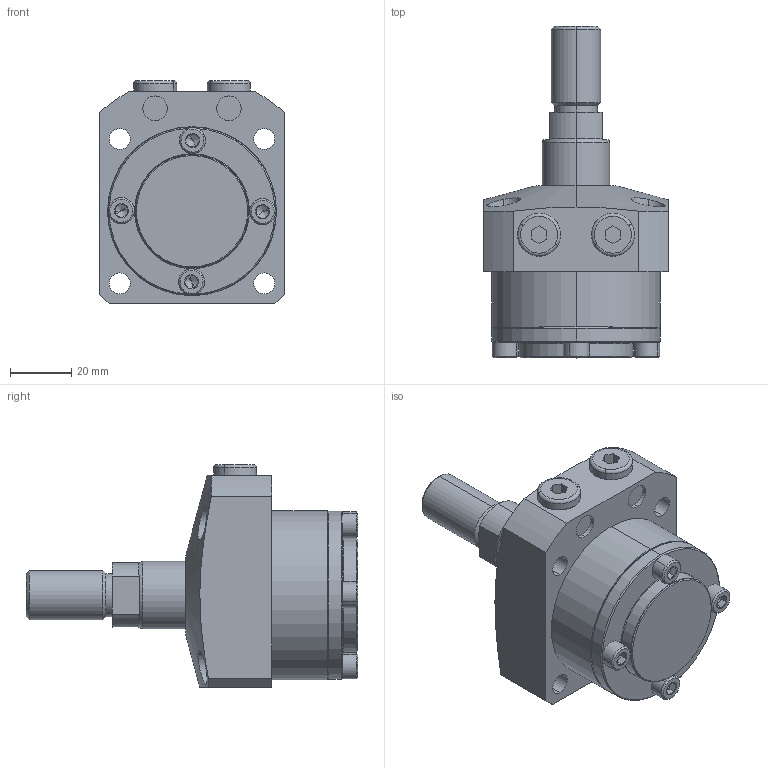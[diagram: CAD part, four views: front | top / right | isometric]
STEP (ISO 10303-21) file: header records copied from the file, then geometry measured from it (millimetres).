
FILE_DESCRIPTION (( 'STEP AP203' ), '1' );
FILE_NAME ('680550-CT-015.step', '2016-11-02T03:23:37', ( 'wxp' ), ( '' ), 'SwSTEP 2.0', 'SolidWorks 2011', '' );
FILE_SCHEMA (( 'CONFIG_CONTROL_DESIGN' ));
Length unit declared in the file: millimetre
Products named in the file (6): 葩璃 68055-CA-15-3^680550-CT-015; 葩璃 68055-CA-15-1^680550-CT-015; 680550-CT-015; 葩璃 680550-15-12^680550-CT-015; 葩璃 68055-CA-15-5^680550-CT-015; 葩璃 68055-CA-15-4^680550-CT-015
Assembly tree (9 placements, depth 2):
  680550-CT-015
    葩璃 68055-CA-15-4^680550-CT-015  x4
    葩璃 68055-CA-15-1^680550-CT-015
    葩璃 68055-CA-15-5^680550-CT-015  x2
    葩璃 68055-CA-15-3^680550-CT-015
    葩璃 680550-15-12^680550-CT-015
Bounding box: 60 x 108 x 72.5 mm (x, y, z)
Volume: 166267.7 mm3; surface area: 34176.1 mm2
Topology: 9 solids, 9 shells, 278 faces, 552 edges, 309 vertices
Faces by surface type: plane 109, cylinder 81, cone 72, torus 16
Entity records: 5442 total; most frequent: CARTESIAN_POINT 1166, DIRECTION 821, ORIENTED_EDGE 668, AXIS2_PLACEMENT_3D 342, EDGE_CURVE 334, VERTEX_POINT 202, EDGE_LOOP 192, CIRCLE 171
